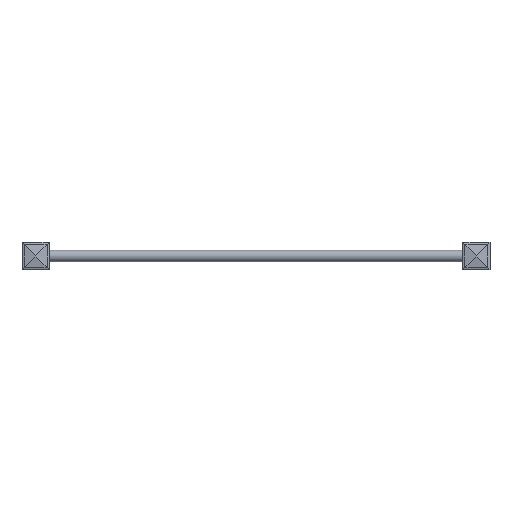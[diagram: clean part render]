
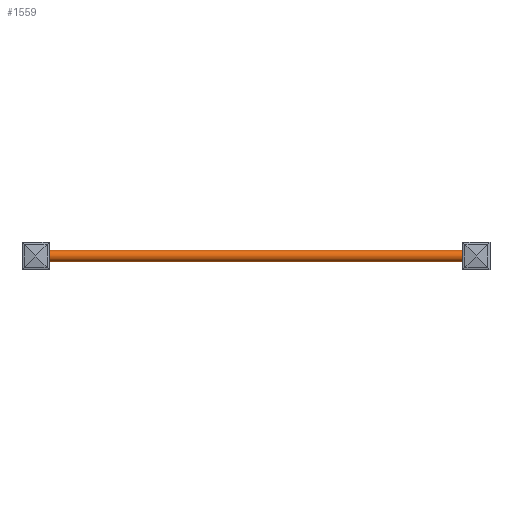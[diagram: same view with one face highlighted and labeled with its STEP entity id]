
A CAD part, top view. The second image highlights one B-rep face of the part: STEP entity #1559.
In plain terms, the highlighted free-form (B-spline) face has degree [2, 1] with [5, 2] control points.
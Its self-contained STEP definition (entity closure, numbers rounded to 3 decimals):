
#1559=ADVANCED_FACE('',(#2141),#8841,.T.);
#2141=FACE_OUTER_BOUND('',#2723,.T.);
#2723=EDGE_LOOP('',(#3403,#3404,#3405,#3406));
#3403=ORIENTED_EDGE('',*,*,#6106,.T.);
#3404=ORIENTED_EDGE('',*,*,#6105,.F.);
#3405=ORIENTED_EDGE('',*,*,#6104,.F.);
#3406=ORIENTED_EDGE('',*,*,#6103,.T.);
#6103=EDGE_CURVE('',#7477,#7479,#7453,.T.);
#6104=EDGE_CURVE('',#7477,#7478,#7454,.T.);
#6105=EDGE_CURVE('',#7478,#7480,#7455,.T.);
#6106=EDGE_CURVE('',#7479,#7480,#7456,.T.);
#7453=(
BOUNDED_CURVE()
B_SPLINE_CURVE(2,(#9873,#9874,#9875,#9876,#9877),.UNSPECIFIED.,.F.,.F.)
B_SPLINE_CURVE_WITH_KNOTS((3,2,3),(0.,23.562,47.124),
 .UNSPECIFIED.)
CURVE()
GEOMETRIC_REPRESENTATION_ITEM()
RATIONAL_B_SPLINE_CURVE((1.,0.707,1.,0.707,1.))
REPRESENTATION_ITEM('')
);
#7454=(
BOUNDED_CURVE()
B_SPLINE_CURVE(1,(#9878,#9879),.UNSPECIFIED.,.F.,.F.)
B_SPLINE_CURVE_WITH_KNOTS((2,2),(0.,1885.),.UNSPECIFIED.)
CURVE()
GEOMETRIC_REPRESENTATION_ITEM()
RATIONAL_B_SPLINE_CURVE((1.,1.))
REPRESENTATION_ITEM('')
);
#7455=(
BOUNDED_CURVE()
B_SPLINE_CURVE(2,(#9880,#9881,#9882,#9883,#9884),.UNSPECIFIED.,.F.,.F.)
B_SPLINE_CURVE_WITH_KNOTS((3,2,3),(0.,23.562,47.124),
 .UNSPECIFIED.)
CURVE()
GEOMETRIC_REPRESENTATION_ITEM()
RATIONAL_B_SPLINE_CURVE((1.,0.707,1.,0.707,1.))
REPRESENTATION_ITEM('')
);
#7456=(
BOUNDED_CURVE()
B_SPLINE_CURVE(1,(#9885,#9886),.UNSPECIFIED.,.F.,.F.)
B_SPLINE_CURVE_WITH_KNOTS((2,2),(0.,1885.),.UNSPECIFIED.)
CURVE()
GEOMETRIC_REPRESENTATION_ITEM()
RATIONAL_B_SPLINE_CURVE((1.,1.))
REPRESENTATION_ITEM('')
);
#7477=VERTEX_POINT('',#9869);
#7478=VERTEX_POINT('',#9870);
#7479=VERTEX_POINT('',#9871);
#7480=VERTEX_POINT('',#9872);
#8841=(
BOUNDED_SURFACE()
B_SPLINE_SURFACE(2,1,((#9847,#9848),(#9849,#9850),(#9851,#9852),(#9853,
#9854),(#9855,#9856)),.UNSPECIFIED.,.F.,.F.,.F.)
B_SPLINE_SURFACE_WITH_KNOTS((3,2,3),(2,2),(0.,23.562,47.124),
(0.,1885.),.UNSPECIFIED.)
GEOMETRIC_REPRESENTATION_ITEM()
RATIONAL_B_SPLINE_SURFACE(((1.,1.),(0.707,0.707),
(1.,1.),(0.707,0.707),(1.,1.)))
REPRESENTATION_ITEM('')
SURFACE()
);
#9847=CARTESIAN_POINT('',(57.5,26.,1099.5));
#9848=CARTESIAN_POINT('',(1942.5,26.,1099.5));
#9849=CARTESIAN_POINT('',(57.5,26.,1125.5));
#9850=CARTESIAN_POINT('',(1942.5,26.,1125.5));
#9851=CARTESIAN_POINT('',(57.5,0.,1125.5));
#9852=CARTESIAN_POINT('',(1942.5,0.,1125.5));
#9853=CARTESIAN_POINT('',(57.5,-26.,1125.5));
#9854=CARTESIAN_POINT('',(1942.5,-26.,1125.5));
#9855=CARTESIAN_POINT('',(57.5,-26.,1099.5));
#9856=CARTESIAN_POINT('',(1942.5,-26.,1099.5));
#9869=CARTESIAN_POINT('',(57.5,26.,1099.5));
#9870=CARTESIAN_POINT('',(1942.5,26.,1099.5));
#9871=CARTESIAN_POINT('',(57.5,-26.,1099.5));
#9872=CARTESIAN_POINT('',(1942.5,-26.,1099.5));
#9873=CARTESIAN_POINT('',(57.5,26.,1099.5));
#9874=CARTESIAN_POINT('',(57.5,26.,1125.5));
#9875=CARTESIAN_POINT('',(57.5,0.,1125.5));
#9876=CARTESIAN_POINT('',(57.5,-26.,1125.5));
#9877=CARTESIAN_POINT('',(57.5,-26.,1099.5));
#9878=CARTESIAN_POINT('',(57.5,26.,1099.5));
#9879=CARTESIAN_POINT('',(1942.5,26.,1099.5));
#9880=CARTESIAN_POINT('',(1942.5,26.,1099.5));
#9881=CARTESIAN_POINT('',(1942.5,26.,1125.5));
#9882=CARTESIAN_POINT('',(1942.5,0.,1125.5));
#9883=CARTESIAN_POINT('',(1942.5,-26.,1125.5));
#9884=CARTESIAN_POINT('',(1942.5,-26.,1099.5));
#9885=CARTESIAN_POINT('',(57.5,-26.,1099.5));
#9886=CARTESIAN_POINT('',(1942.5,-26.,1099.5));
